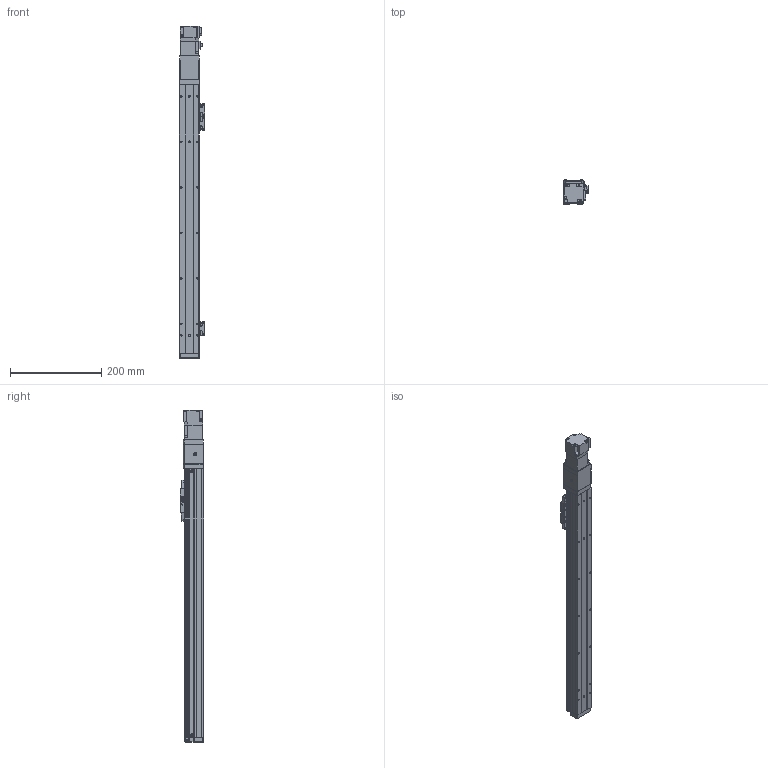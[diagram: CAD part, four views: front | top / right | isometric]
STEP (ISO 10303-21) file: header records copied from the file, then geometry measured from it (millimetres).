
FILE_DESCRIPTION (( 'STEP AP214' ), '1' );
FILE_NAME ('RGH4-XX-450-E-M05-C4.step', '2025-10-28T06:10:08', ( 'Microsoft' ), ( 'Microsoft' ), 'SwSTEP 2.0', 'SolidWorks 2018', '' );
FILE_SCHEMA (( 'AUTOMOTIVE_DESIGN' ));
Length unit declared in the file: millimetre
Products named in the file (1): RGH4-XX-450-E-M05-C4
Bounding box: 55.2 x 52 x 729.4 mm (x, y, z)
Volume: 1139232.3 mm3; surface area: 216499.9 mm2
Topology: 51 solids, 51 shells, 1888 faces, 4424 edges, 2724 vertices
Faces by surface type: plane 1026, cylinder 465, cone 257, torus 132, sphere 8
Entity records: 75494 total; most frequent: CARTESIAN_POINT 9989, DIRECTION 9520, ORIENTED_EDGE 8776, EDGE_CURVE 4388, AXIS2_PLACEMENT_3D 3325, VECTOR 2870, LINE 2870, VERTEX_POINT 2720
